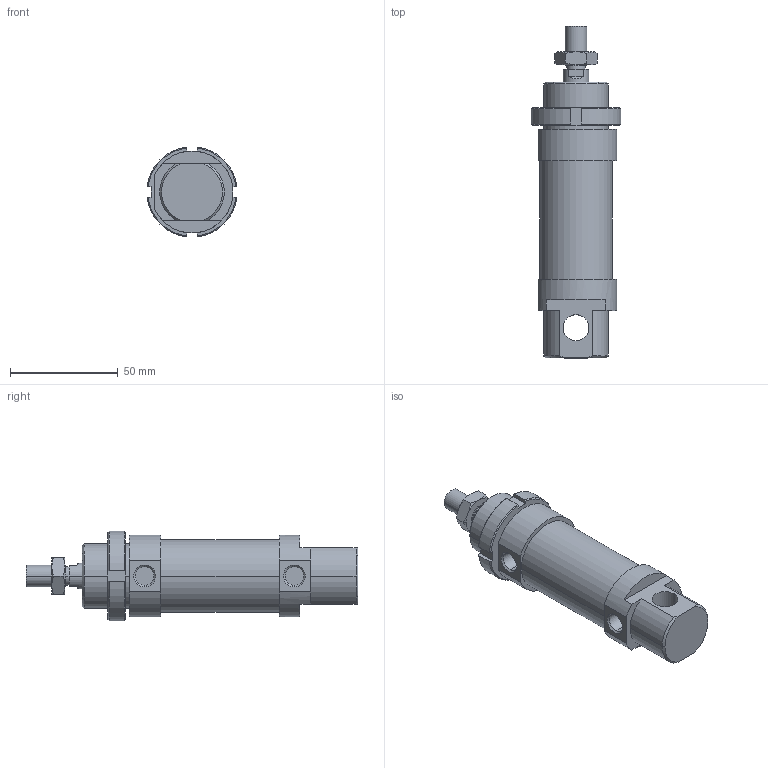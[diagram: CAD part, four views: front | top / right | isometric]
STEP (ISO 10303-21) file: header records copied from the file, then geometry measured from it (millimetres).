
FILE_DESCRIPTION((''),'2;1');
FILE_NAME('I:\DOC-EDP\Lib-3d\1200\CILINDRI\1280\1280_32_0015.stp','2003-04-07T19:04:03',('maffial1'),(''),'Autodesk Inventor (R) 6.0','Autodesk Inventor (R) 6.0','');
FILE_SCHEMA(('AUTOMOTIVE_DESIGN { 1 0 10303 214 1 1 1 1 }'));
Length unit declared in the file: millimetre
Products named in the file (5): 1280_32_0015; S1280_32_15; 1200_32_05; 1200_32_06; C1280_32_15
Assembly tree (4 placements, depth 2):
  1280_32_0015
    S1280_32_15
    1200_32_05
    1200_32_06
    C1280_32_15
Bounding box: 41.7 x 154 x 41.7 mm (x, y, z)
Volume: 114993 mm3; surface area: 26211.2 mm2
Topology: 4 solids, 4 shells, 122 faces, 286 edges, 180 vertices
Faces by surface type: plane 44, cone 32, cylinder 26, bspline 20
Entity records: 3831 total; most frequent: CARTESIAN_POINT 997, DIRECTION 582, ORIENTED_EDGE 572, EDGE_CURVE 286, AXIS2_PLACEMENT_3D 229, VERTEX_POINT 180, EDGE_LOOP 136, VECTOR 124
